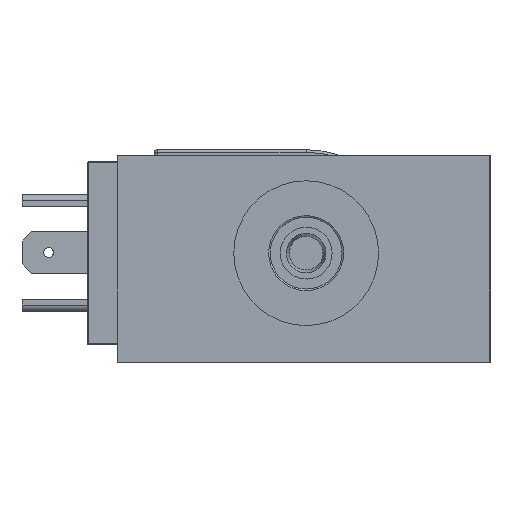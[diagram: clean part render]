
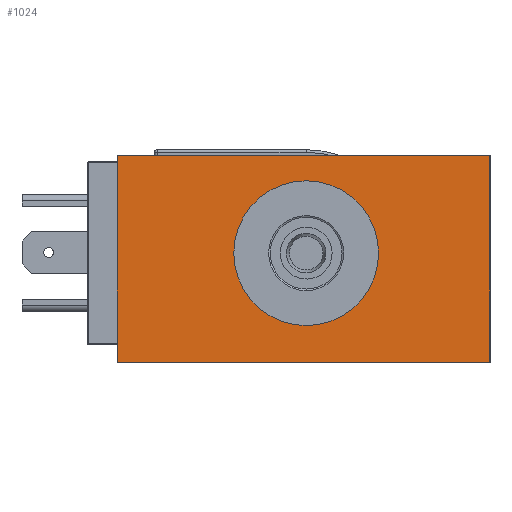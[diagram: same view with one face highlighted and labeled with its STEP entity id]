
A CAD part, left-side view. The second image highlights one B-rep face of the part: STEP entity #1024.
In plain terms, the highlighted planar face has unit normal (-1, 0, 0).
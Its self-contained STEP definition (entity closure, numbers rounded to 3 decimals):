
#1024 = ADVANCED_FACE( '', ( #2094, #2095 ), #2096, .T. );
#2094 = FACE_BOUND( '', #3576, .T. );
#2095 = FACE_OUTER_BOUND( '', #3577, .T. );
#2096 = PLANE( '', #3578 );
#3576 = EDGE_LOOP( '', ( #5627 ) );
#3577 = EDGE_LOOP( '', ( #5628, #5629, #5630, #5631 ) );
#3578 = AXIS2_PLACEMENT_3D( '', #5632, #5633, #5634 );
#5627 = ORIENTED_EDGE( '', *, *, #7999, .T. );
#5628 = ORIENTED_EDGE( '', *, *, #8000, .F. );
#5629 = ORIENTED_EDGE( '', *, *, #7723, .F. );
#5630 = ORIENTED_EDGE( '', *, *, #8001, .T. );
#5631 = ORIENTED_EDGE( '', *, *, #8002, .T. );
#5632 = CARTESIAN_POINT( '', ( -31.75, -28.6, 31.75 ) );
#5633 = DIRECTION( '', ( -1., 0., 0. ) );
#5634 = DIRECTION( '', ( 0., 0., 1. ) );
#7723 = EDGE_CURVE( '', #9749, #9751, #9752, .T. );
#7999 = EDGE_CURVE( '', #10186, #10186, #10187, .T. );
#8000 = EDGE_CURVE( '', #9751, #10188, #10189, .T. );
#8001 = EDGE_CURVE( '', #9749, #10190, #10191, .T. );
#8002 = EDGE_CURVE( '', #10190, #10188, #10192, .T. );
#9749 = VERTEX_POINT( '', #11828 );
#9751 = VERTEX_POINT( '', #11831 );
#9752 = LINE( '', #11832, #11833 );
#10186 = VERTEX_POINT( '', #13389 );
#10187 = CIRCLE( '', #13390, 11.11 );
#10188 = VERTEX_POINT( '', #13391 );
#10189 = LINE( '', #13392, #13393 );
#10190 = VERTEX_POINT( '', #13394 );
#10191 = LINE( '', #13395, #13396 );
#10192 = LINE( '', #13397, #13398 );
#11828 = CARTESIAN_POINT( '', ( -31.75, -28.6, 31.75 ) );
#11831 = CARTESIAN_POINT( '', ( -31.75, -28.6, 0. ) );
#11832 = CARTESIAN_POINT( '', ( -31.75, -28.6, 31.75 ) );
#11833 = VECTOR( '', #15329, 1000. );
#13389 = CARTESIAN_POINT( '', ( -31.75, -0.4, 27.86 ) );
#13390 = AXIS2_PLACEMENT_3D( '', #15643, #15644, #15645 );
#13391 = CARTESIAN_POINT( '', ( -31.75, 28.6, 0. ) );
#13392 = CARTESIAN_POINT( '', ( -31.75, -28.6, 0. ) );
#13393 = VECTOR( '', #15646, 1000. );
#13394 = CARTESIAN_POINT( '', ( -31.75, 28.6, 31.75 ) );
#13395 = CARTESIAN_POINT( '', ( -31.75, -28.6, 31.75 ) );
#13396 = VECTOR( '', #15647, 1000. );
#13397 = CARTESIAN_POINT( '', ( -31.75, 28.6, 31.75 ) );
#13398 = VECTOR( '', #15648, 1000. );
#15329 = DIRECTION( '', ( 0., 0., -1. ) );
#15643 = CARTESIAN_POINT( '', ( -31.75, -0.4, 16.75 ) );
#15644 = DIRECTION( '', ( 1., 0., 0. ) );
#15645 = DIRECTION( '', ( 0., 0., 1. ) );
#15646 = DIRECTION( '', ( 0., 1., 0. ) );
#15647 = DIRECTION( '', ( 0., 1., 0. ) );
#15648 = DIRECTION( '', ( 0., 0., -1. ) );
